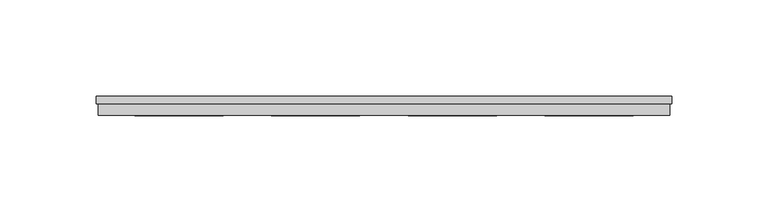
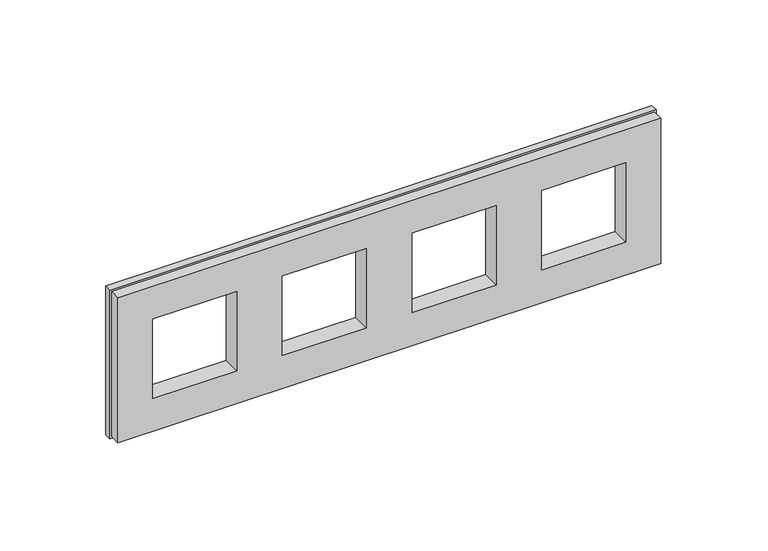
"""IFC4 building model written with IfcOpenShell, lengths in millimetres: proxy geometry, IEK_Skandy_Рамка : x4_SK-F34Bl."""

from ifc_helpers import new_model, si_unit, origin, place, context, project, spatial, faceted_brep, source, transform, mapped, element, save


def electrical_fixtures_173ac67f(model_context):
    return source(origin(), model_context, "Body", "Brep", [
        faceted_brep([(23.0, 10.0, 23.0), (23.0, 0.0, 23.0), (-23.0, 0.0, 23.0), (-23.0, 10.0, 23.0), (23.0, 10.0, -23.0), (23.0, 0.0, -23.0), (-23.0, 10.0, -23.0), (-23.0, 0.0, -23.0), (-255.0, 0.0, 42.0), (-255.0, 0.0, -42.0), (42.0, 0.0, -42.0), (42.0, 0.0, 42.0), (-165.0, 0.0, 23.0), (-119.0, 0.0, 23.0), (-119.0, 0.0, -23.0), (-165.0, 0.0, -23.0), (-236.0, 0.0, 23.0), (-190.0, 0.0, 23.0), (-190.0, 0.0, -23.0), (-236.0, 0.0, -23.0), (-94.0, 0.0, 23.0), (-48.0, 0.0, 23.0), (-48.0, 0.0, -23.0), (-94.0, 0.0, -23.0), (-255.0, 6.0, 42.0), (-255.0, 6.0, -42.0), (42.0, 6.0, -42.0), (42.0, 6.0, 42.0), (-119.0, 10.0, 23.0), (-165.0, 10.0, 23.0), (-119.0, 10.0, -23.0), (-165.0, 10.0, -23.0), (-190.0, 10.0, 23.0), (-236.0, 10.0, 23.0), (-190.0, 10.0, -23.0), (-236.0, 10.0, -23.0), (-48.0, 10.0, 23.0), (-94.0, 10.0, 23.0), (-48.0, 10.0, -23.0), (-94.0, 10.0, -23.0), (-256.0, 6.0, 43.0), (-256.0, 6.0, -43.0), (43.0, 6.0, -43.0), (43.0, 6.0, 43.0), (-256.0, 10.0, 43.0), (-256.0, 10.0, -43.0), (43.0, 10.0, -43.0), (43.0, 10.0, 43.0)], [[[0, 1, 2, 3]], [[1, 0, 4, 5]], [[5, 4, 6, 7]], [[3, 2, 7, 6]], [[8, 9, 10, 11], [2, 1, 5, 7], [12, 13, 14, 15], [16, 17, 18, 19], [20, 21, 22, 23]], [[9, 8, 24, 25]], [[10, 9, 25, 26]], [[11, 10, 26, 27]], [[8, 11, 27, 24]], [[28, 13, 12, 29]], [[13, 28, 30, 14]], [[14, 30, 31, 15]], [[29, 12, 15, 31]], [[32, 17, 16, 33]], [[17, 32, 34, 18]], [[18, 34, 35, 19]], [[33, 16, 19, 35]], [[36, 21, 20, 37]], [[21, 36, 38, 22]], [[22, 38, 39, 23]], [[37, 20, 23, 39]], [[40, 41, 42, 43], [25, 24, 27, 26]], [[41, 40, 44, 45]], [[42, 41, 45, 46]], [[43, 42, 46, 47]], [[40, 43, 47, 44]], [[44, 47, 46, 45], [0, 3, 6, 4], [28, 29, 31, 30], [32, 33, 35, 34], [36, 37, 39, 38]]]),
    ])


if __name__ == "__main__":
    model = new_model("IFC4")
    model_context = context("Model", 3, world=origin())
    ifc_project = project(units=[si_unit("LENGTHUNIT", "METRE", prefix="MILLI")], contexts=[model_context])
    site = spatial("IfcSite", under=ifc_project)
    building = spatial("IfcBuilding", under=site)
    placement = place(None, origin())
    electrical_fixtures_shape = electrical_fixtures_173ac67f(model_context)
    element("IfcBuildingElementProxy", 1, Name="IEK_Skandy_Рамка : x4_SK-F34Bl", ObjectType="IEK_Skandy_Рамка : x4_SK-F34Bl", at=placement, inside=building, context=model_context, shape_type="MappedRepresentation", body=[
        mapped(electrical_fixtures_shape, transform((0.0, 0.0, 0.0), x_axis=(1.0, 0.0, 0.0), y_axis=(0.0, 1.0, 0.0), z_axis=(0.0, 0.0, 1.0))),
    ])
    save(model, "model.ifc")
